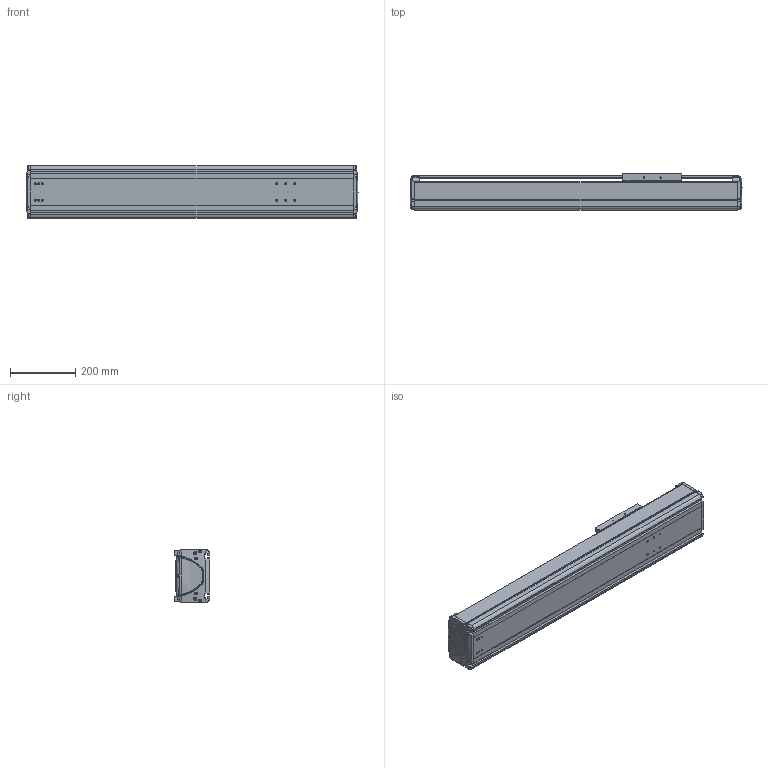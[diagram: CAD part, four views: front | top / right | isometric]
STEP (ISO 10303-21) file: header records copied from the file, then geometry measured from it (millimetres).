
FILE_DESCRIPTION((''),'2;1');
FILE_NAME('BE50G-ST-M_B-60_IGS_PRT','2017-06-18T',(' '),(''),'PRO/ENGINEER BY PARAMETRIC TECHNOLOGY CORPORATION, 2015030','PRO/ENGINEER BY PARAMETRIC TECHNOLOGY CORPORATION, 2015030','');
FILE_SCHEMA(('CONFIG_CONTROL_DESIGN'));
Length unit declared in the file: millimetre
Products named in the file (1): BE50G-ST-M_B-60_IGS_PRT
Bounding box: 1014.98 x 110 x 160 mm (x, y, z)
Volume: 4309102 mm3; surface area: 1594852.2 mm2
Topology: 3 solids, 82 shells, 1532 faces, 4062 edges, 2613 vertices
Faces by surface type: cylinder 664, plane 581, bspline 102, torus 87, cone 58, sphere 40
Entity records: 52890 total; most frequent: CARTESIAN_POINT 15329, ORIENTED_EDGE 7728, DIRECTION 7682, EDGE_CURVE 4022, AXIS2_PLACEMENT_3D 2856, VERTEX_POINT 2603, VECTOR 1970, LINE 1970
